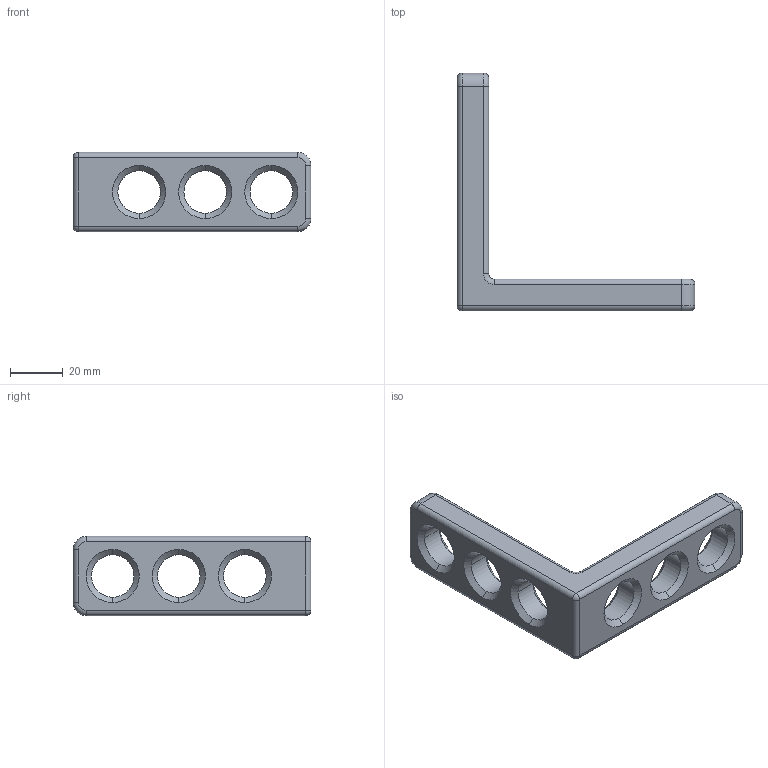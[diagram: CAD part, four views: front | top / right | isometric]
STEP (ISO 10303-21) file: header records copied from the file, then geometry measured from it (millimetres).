
FILE_DESCRIPTION (( 'STEP AP203' ), '1' );
FILE_NAME ('160113_90 VL.step', '2014-08-08T10:20:51', ( 'User' ), ( '' ), 'SwSTEP 2.0', 'SolidWorks 2014', '' );
FILE_SCHEMA (( 'CONFIG_CONTROL_DESIGN' ));
Length unit declared in the file: millimetre
Products named in the file (1): 160113_90 VL
Bounding box: 90 x 90 x 30 mm (x, y, z)
Volume: 43592.7 mm3; surface area: 14518.9 mm2
Topology: 1 solids, 1 shells, 74 faces, 192 edges, 118 vertices
Faces by surface type: cylinder 30, cone 24, torus 10, plane 8, sphere 2
Entity records: 2385 total; most frequent: DIRECTION 458, CARTESIAN_POINT 383, ORIENTED_EDGE 380, AXIS2_PLACEMENT_3D 193, EDGE_CURVE 190, CIRCLE 118, VERTEX_POINT 118, EDGE_LOOP 86
